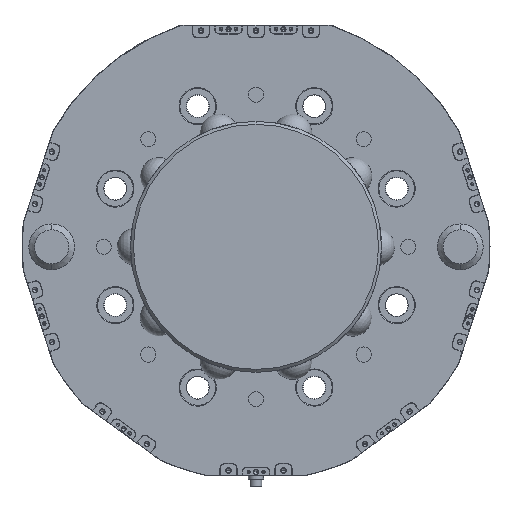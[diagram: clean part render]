
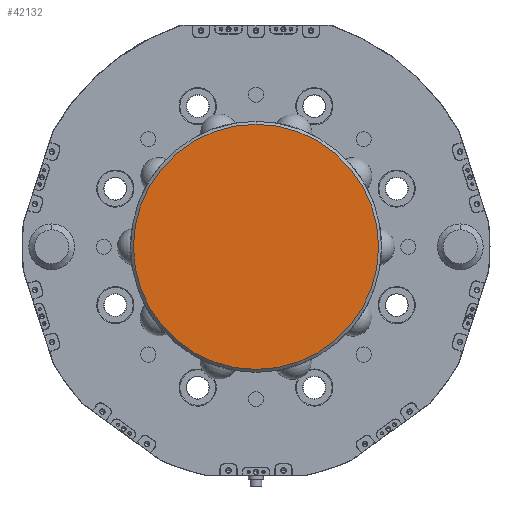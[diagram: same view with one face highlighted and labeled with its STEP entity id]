
A CAD part, front view. The second image highlights one B-rep face of the part: STEP entity #42132.
In plain terms, the highlighted planar face has unit normal (0, -1, 0).
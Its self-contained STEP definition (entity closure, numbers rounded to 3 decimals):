
#200 = VERTEX_POINT ( 'NONE', #16311 ) ;
#4663 = PLANE ( 'NONE',  #28888 ) ;
#4807 = DIRECTION ( 'NONE',  ( 0., 0., -1. ) ) ;
#10702 = ORIENTED_EDGE ( 'NONE', *, *, #42163, .T. ) ;
#10775 = DIRECTION ( 'NONE',  ( 0., -1., 0. ) ) ;
#10915 = DIRECTION ( 'NONE',  ( 0., 0., -1. ) ) ;
#16311 = CARTESIAN_POINT ( 'NONE',  ( 0., 13.18, -82.5 ) ) ;
#19101 = DIRECTION ( 'NONE',  ( 0., -1., 0. ) ) ;
#20242 = AXIS2_PLACEMENT_3D ( 'NONE', #31935, #10775, #10915 ) ;
#22327 = EDGE_CURVE ( 'NONE', #200, #34462, #23941, .T. ) ;
#23941 = CIRCLE ( 'NONE', #20242, 82.5 ) ;
#24358 = ORIENTED_EDGE ( 'NONE', *, *, #22327, .T. ) ;
#25999 = DIRECTION ( 'NONE',  ( 0., 0., -1. ) ) ;
#27835 = CARTESIAN_POINT ( 'NONE',  ( 0., 13.18, 82.5 ) ) ;
#28437 = FACE_OUTER_BOUND ( 'NONE', #40320, .T. ) ;
#28888 = AXIS2_PLACEMENT_3D ( 'NONE', #43413, #19101, #4807 ) ;
#29386 = CARTESIAN_POINT ( 'NONE',  ( 0., 13.18, 0. ) ) ;
#31935 = CARTESIAN_POINT ( 'NONE',  ( 0., 13.18, 0. ) ) ;
#34462 = VERTEX_POINT ( 'NONE', #27835 ) ;
#36425 = DIRECTION ( 'NONE',  ( 0., -1., 0. ) ) ;
#36539 = AXIS2_PLACEMENT_3D ( 'NONE', #29386, #36425, #25999 ) ;
#40320 = EDGE_LOOP ( 'NONE', ( #10702, #24358 ) ) ;
#42132 = ADVANCED_FACE ( 'NONE', ( #28437 ), #4663, .T. ) ;
#42163 = EDGE_CURVE ( 'NONE', #34462, #200, #44826, .T. ) ;
#43413 = CARTESIAN_POINT ( 'NONE',  ( 0., 13.18, 0. ) ) ;
#44826 = CIRCLE ( 'NONE', #36539, 82.5 ) ;
